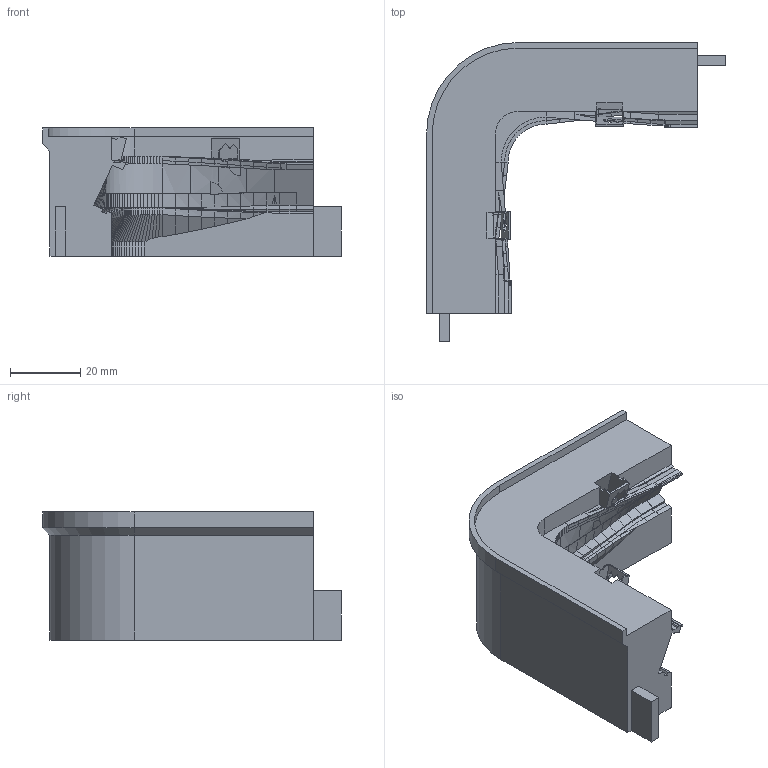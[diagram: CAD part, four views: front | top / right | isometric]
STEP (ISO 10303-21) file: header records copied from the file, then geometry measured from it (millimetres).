
FILE_DESCRIPTION(('Open CASCADE Model'),'2;1');
FILE_NAME('Open CASCADE Shape Model','2026-10-21T19:15:45',('Author'),( 'Open CASCADE'),'Open CASCADE STEP processor 8.0','build123d', 'Unknown');
FILE_SCHEMA(('AUTOMOTIVE_DESIGN { 1 0 10303 214 1 1 1 1 }'));
Products named in the file (1): SOLID
Bounding box: 85.1 x 85.1 x 36.5 mm (x, y, z)
Volume: 75980.6 mm3; surface area: 17752.2 mm2
Topology: 1 solids, 1 shells, 754 faces, 1996 edges, 1240 vertices
Faces by surface type: bspline 366, plane 363, extrusion 14, cylinder 10, cone 1
Entity records: 51378 total; most frequent: CARTESIAN_POINT 16667, DIRECTION 4434, ORIENTED_EDGE 3992, PCURVE 3992, DEFINITIONAL_REPRESENTATION 3992, VECTOR 3636, LINE 3622, B_SPLINE_CURVE_WITH_KNOTS 2342
